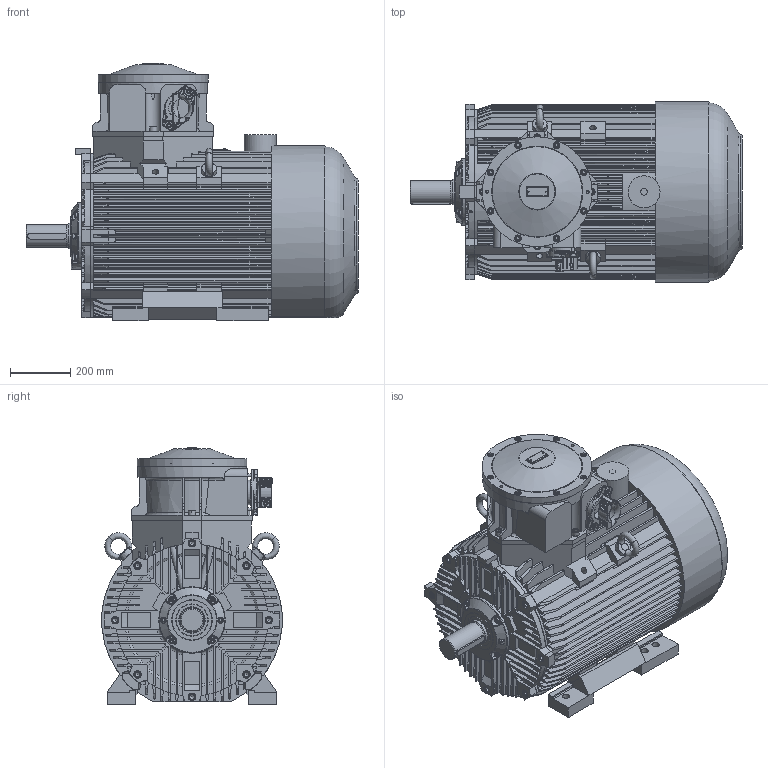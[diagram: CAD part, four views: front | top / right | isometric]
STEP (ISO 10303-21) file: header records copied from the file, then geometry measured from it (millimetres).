
FILE_DESCRIPTION(/* description */ ('Unknown'),/* implementation_level */ '2;1');
FILE_NAME(/* name */ 'cSTe280SM4-8-IE2-3',/* time_stamp */ '2021-12-27T08:25:40+01:00',/* author */ ('Unknown'),/* organization */ ('Unknown'),/* preprocessor_version */ 'ST-DEVELOPER v16.7',/* originating_system */ 'DEX',/* authorisation */ $);
FILE_SCHEMA (('AUTOMOTIVE_DESIGN {1 0 10303 214 3 1 1}'));
Length unit declared in the file: millimetre
Products named in the file (1): cSTe280SM4-8-IE2-3
Bounding box: 1100 x 597.51 x 851.76 mm (x, y, z)
Volume: 244361275.5 mm3; surface area: 5334189.1 mm2
Topology: 1 solids, 46 shells, 2772 faces, 7358 edges, 4726 vertices
Faces by surface type: plane 1225, cylinder 796, cone 373, torus 200, bspline 132, sphere 46
Full cylindrical faces by diameter (mm): 2.8 x2, 4.5 x1, 6 x1, 8.16 x4, 8.376 x6, 8.917 x2, 9.853 x8, 10 x12, 10.106 x8, 11 x6, 12 x18, 13.5 x8, 13.835 x2, 16 x20, 17.5 x12, 18 x8, 18.376 x1, 19.6 x2, 20.752 x10, 22 x8, 22.376 x1, 24 x18, 26 x8, 67 x1, 75 x1, 81.5 x1, 84 x1, 85 x1, 87 x1, 106 x1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
Entity records: 110533 total; most frequent: CARTESIAN_POINT 25120, ORIENTED_EDGE 13618, DIRECTION 13536, EDGE_CURVE 6809, AXIS2_PLACEMENT_3D 5089, VERTEX_POINT 4589, LINE 3358, VECTOR 3358
